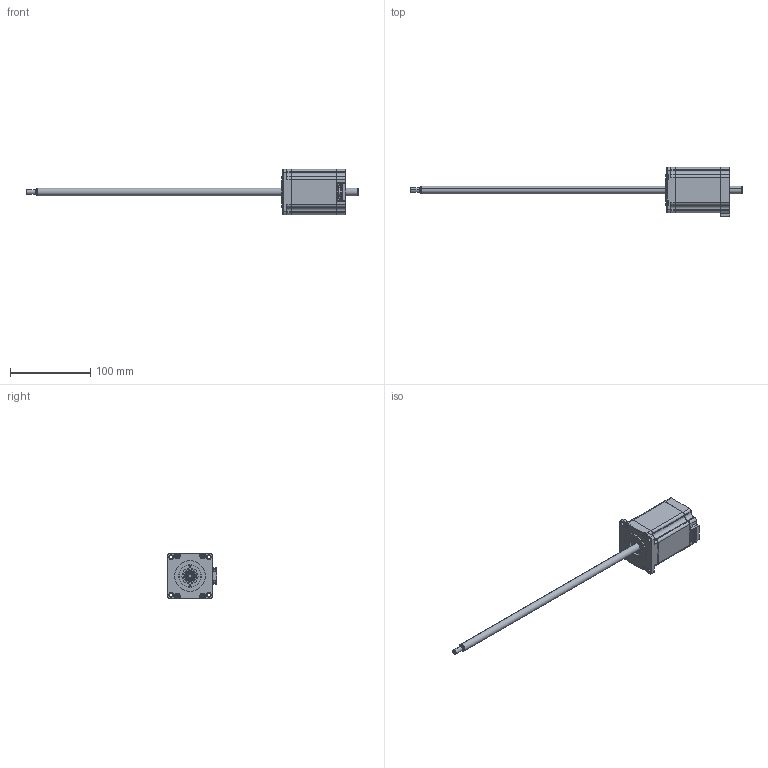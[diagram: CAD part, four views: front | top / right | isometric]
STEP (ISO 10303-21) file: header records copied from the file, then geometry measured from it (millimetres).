
FILE_DESCRIPTION (( 'STEP AP203' ), '1' );
FILE_NAME ('LN23AS-E09050-400-S-300.STEP', '2019-04-13T02:22:51', ( 'Sky123.Org' ), ( 'Sky123.Org' ), 'SwSTEP 2.0', 'SolidWorks 2014', '' );
FILE_SCHEMA (( 'CONFIG_CONTROL_DESIGN' ));
Length unit declared in the file: millimetre
Products named in the file (1): LN23AS-E09050-400-S-300
Bounding box: 413 x 61.2 x 56.2 mm (x, y, z)
Surface area: 44429.9 mm2 (no closed solid volume)
Topology: 0 solids, 23 shells, 340 faces, 1086 edges, 741 vertices
Faces by surface type: plane 160, cylinder 96, cone 72, sphere 8, torus 4
Entity records: 12374 total; most frequent: CARTESIAN_POINT 2748, DIRECTION 2048, ORIENTED_EDGE 1791, EDGE_CURVE 1086, VERTEX_POINT 741, AXIS2_PLACEMENT_3D 715, LINE 618, VECTOR 618
